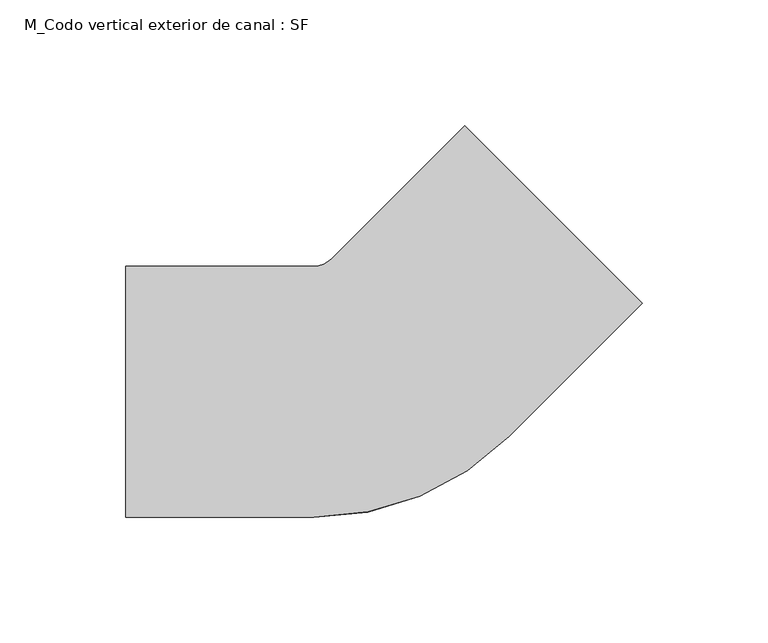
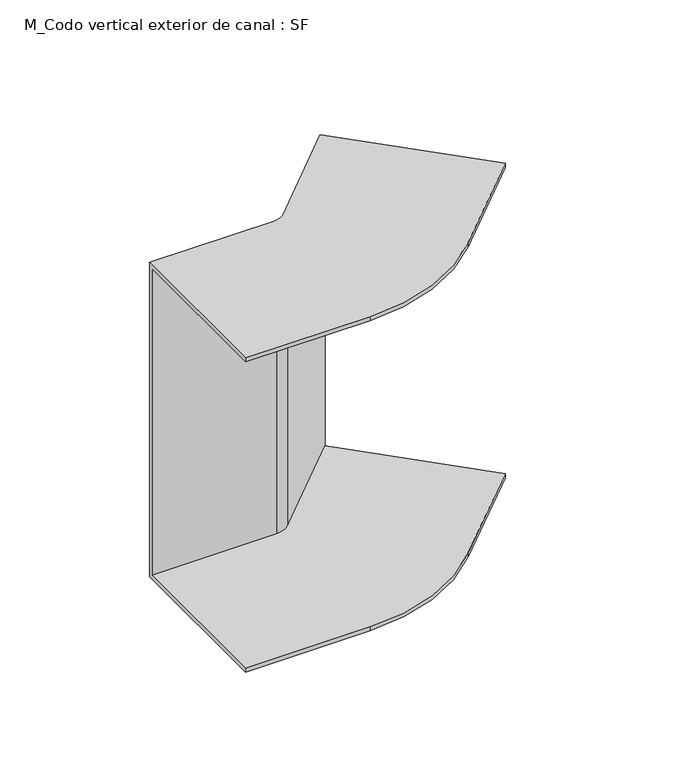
"""IFC4 building model written with IfcOpenShell, lengths in millimetres: cable carrier fitting geometry, M_Codo vertical exterior de canal : SF."""

from ifc_helpers import new_model, si_unit, frame, origin, place, context, project, spatial, polyline, circle_curve, source, transform, mapped, element, save
from ifc_brep_helpers import plane_surface, cylinder_surface, revolved_surface, advanced_brep


def m_codo_vertical_exterior_de_canal_sf_2009c7b2(model_context):
    return source(origin(), model_context, "Body", "AdvancedBrep", [
        advanced_brep(
        [(-99.8528137, -50.0, 100.0), (-99.8528137, 50.0, 100.0), (-99.8528137, 50.0, -100.0), (-99.8528137, -50.0, -100.0), (-99.8528137, -50.0, -97.46), (-99.8528137, 47.46, -97.46), (-99.8528137, 47.46, 97.46), (-99.8528137, -50.0, 97.46), (105.9619408, 35.2512627, 100.0), (105.9619408, 35.2512627, 97.46), (37.0473139, 104.1658896, 97.46), (37.0473139, 104.1658896, -97.46), (105.9619408, 35.2512627, -97.46), (105.9619408, 35.2512627, -100.0), (35.2512627, 105.9619408, -100.0), (35.2512627, 105.9619408, 100.0), (-24.8528137, -50.0, 100.0), (52.9289322, -17.7817459, 100.0), (-17.7817459, 52.9289322, 100.0), (-24.8528137, 50.0, 100.0), (-24.8528137, 50.0, -100.0), (-17.7817459, 52.9289322, -100.0), (52.9289322, -17.7817459, -100.0), (-24.8528137, -50.0, -100.0), (-24.8528137, -50.0, -97.46), (52.9289322, -17.7817459, -97.46), (-15.9856947, 51.132881, -97.46), (-24.8528137, 47.46, -97.46), (-24.8528137, 47.46, 97.46), (-15.9856947, 51.132881, 97.46), (52.9289322, -17.7817459, 97.46), (-24.8528137, -50.0, 97.46)],
        [
            (0, 1),
            (1, 2),
            (2, 3),
            (3, 4),
            (4, 5),
            (5, 6),
            (6, 7),
            (7, 0),
            (8, 9),
            (9, 10),
            (10, 11),
            (11, 12),
            (12, 13),
            (13, 14),
            (14, 15),
            (15, 8),
            (0, 16),
            (16, 17, circle_curve(frame((-24.8528137, 60.0, 100.0), z_axis=(0.0, 0.0, 1.0), x_axis=(0.0, -1.0, 0.0)), 110.0)),
            (17, 8),
            (15, 18),
            (18, 19, circle_curve(frame((-24.8528137, 60.0, 100.0), z_axis=(0.0, 0.0, -1.0), x_axis=(0.0, -1.0, 0.0)), 10.0)),
            (19, 1),
            (19, 20),
            (20, 2),
            (20, 21, circle_curve(frame((-24.8528137, 60.0, -100.0), z_axis=(0.0, 0.0, 1.0), x_axis=(0.0, -1.0, 0.0)), 10.0)),
            (21, 14),
            (13, 22),
            (22, 23, circle_curve(frame((-24.8528137, 60.0, -100.0), z_axis=(0.0, 0.0, -1.0), x_axis=(0.0, -1.0, 0.0)), 110.0)),
            (23, 3),
            (23, 24),
            (24, 4),
            (24, 25, circle_curve(frame((-24.8528137, 60.0, -97.46), z_axis=(0.0, 0.0, 1.0), x_axis=(0.0, -1.0, 0.0)), 110.0)),
            (25, 12),
            (11, 26),
            (26, 27, circle_curve(frame((-24.8528137, 60.0, -97.46), z_axis=(0.0, 0.0, -1.0), x_axis=(0.0, -1.0, 0.0)), 12.54)),
            (27, 5),
            (27, 28),
            (28, 6),
            (28, 29, circle_curve(frame((-24.8528137, 60.0, 97.46), z_axis=(0.0, 0.0, 1.0), x_axis=(0.0, -1.0, 0.0)), 12.54)),
            (29, 10),
            (9, 30),
            (30, 31, circle_curve(frame((-24.8528137, 60.0, 97.46), z_axis=(0.0, 0.0, -1.0), x_axis=(0.0, -1.0, 0.0)), 110.0)),
            (31, 7),
            (31, 16),
            (18, 21),
            (22, 25),
            (26, 29),
            (30, 17),
        ],
        [
            plane_surface(frame((-99.8528137, 0.0, 0.0), z_axis=(-1.0, 0.0, 0.0), x_axis=(0.0, 0.0, 1.0))),
            plane_surface(frame((70.6066017, 70.6066017, 0.0), z_axis=(0.7071067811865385, 0.7071067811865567, 0.0), x_axis=(0.0, 0.0, 1.0))),
            plane_surface(frame((-99.8528137, -50.0, 100.0), z_axis=(0.0, 0.0, 1.0), x_axis=(1.0, 0.0, 0.0))),
            plane_surface(frame((-99.8528137, 50.0, 100.0), z_axis=(0.0, 1.0, 0.0), x_axis=(1.0, 0.0, 0.0))),
            plane_surface(frame((-99.8528137, 50.0, -100.0), z_axis=(0.0, 0.0, -1.0), x_axis=(1.0, 0.0, 0.0))),
            plane_surface(frame((-99.8528137, -50.0, -100.0), z_axis=(0.0, -1.0, 0.0), x_axis=(1.0, 0.0, 0.0))),
            plane_surface(frame((-99.8528137, -50.0, -97.46), z_axis=(0.0, 0.0, 1.0), x_axis=(1.0, 0.0, 0.0))),
            plane_surface(frame((-99.8528137, 47.46, -97.46), z_axis=(0.0, -1.0, 0.0), x_axis=(1.0, 0.0, 0.0))),
            plane_surface(frame((-99.8528137, 47.46, 97.46), z_axis=(0.0, 0.0, -1.0), x_axis=(1.0, 0.0, 0.0))),
            plane_surface(frame((-99.8528137, -50.0, 97.46), z_axis=(0.0, -1.0, 0.0), x_axis=(1.0, 0.0, 0.0))),
            revolved_surface(polyline([(-24.8528137, 50.0, 100.0), (-24.8528137, 50.0, -100.0)]), (-24.8528137, 60.0, 0.0), (0.0, 0.0, 1.0)),
            cylinder_surface(frame((-24.8528137, 60.0, 0.0), z_axis=(0.0, 0.0, 1.0), x_axis=(0.0, -1.0, 0.0)), 110.0),
            cylinder_surface(frame((-24.8528137, 60.0, 0.0), z_axis=(0.0, 0.0, 1.0), x_axis=(0.0, -1.0, 0.0)), 12.54),
            plane_surface(frame((-17.7817459, 52.9289322, 100.0), z_axis=(-0.7071067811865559, 0.7071067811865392, 0.0), x_axis=(0.7071067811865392, 0.7071067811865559, 0.0))),
            plane_surface(frame((52.9289322, -17.7817459, -100.0), z_axis=(0.7071067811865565, -0.7071067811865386, 0.0), x_axis=(0.7071067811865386, 0.7071067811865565, 0.0))),
            plane_surface(frame((-15.9856947, 51.132881, -97.46), z_axis=(0.7071067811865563, -0.7071067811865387, 0.0), x_axis=(0.7071067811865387, 0.7071067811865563, 0.0))),
            plane_surface(frame((52.9289322, -17.7817459, 97.46), z_axis=(0.7071067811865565, -0.7071067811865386, 0.0), x_axis=(0.7071067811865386, 0.7071067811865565, 0.0))),
        ],
        [
            (0, [[1, 2, 3, 4, 5, 6, 7, 8]]),
            (1, [[9, 10, 11, 12, 13, 14, 15, 16]]),
            (2, [[-1, 17, 18, 19, -16, 20, 21, 22]]),
            (3, [[-2, -22, 23, 24]]),
            (4, [[-3, -24, 25, 26, -14, 27, 28, 29]]),
            (5, [[-4, -29, 30, 31]]),
            (6, [[-5, -31, 32, 33, -12, 34, 35, 36]]),
            (7, [[-6, -36, 37, 38]]),
            (8, [[-7, -38, 39, 40, -10, 41, 42, 43]]),
            (9, [[-8, -43, 44, -17]]),
            (10, [[-25, -23, -21, 45]]),
            (11, [[-32, -30, -28, 46]]),
            (12, [[-39, -37, -35, 47]]),
            (11, [[-18, -44, -42, 48]]),
            (13, [[-45, -20, -15, -26]]),
            (14, [[-46, -27, -13, -33]]),
            (15, [[-47, -34, -11, -40]]),
            (16, [[-48, -41, -9, -19]]),
        ],
    ),
    ])


if __name__ == "__main__":
    model = new_model("IFC4")
    model_context = context("Model", 3, world=origin())
    ifc_project = project(units=[si_unit("LENGTHUNIT", "METRE", prefix="MILLI")], contexts=[model_context])
    site = spatial("IfcSite", under=ifc_project)
    building = spatial("IfcBuilding", under=site)
    placement = place(None, origin())
    m_codo_vertical_exterior_de_canal_sf_shape = m_codo_vertical_exterior_de_canal_sf_2009c7b2(model_context)
    element("IfcCableCarrierFitting", 1, ObjectType="M_Codo vertical exterior de canal : SF", at=placement, inside=building, context=model_context, shape_type="MappedRepresentation", body=[
        mapped(m_codo_vertical_exterior_de_canal_sf_shape, transform((0.0, 0.0, 0.0), x_axis=(1.0, 0.0, 0.0), y_axis=(0.0, 1.0, 0.0), z_axis=(0.0, 0.0, 1.0))),
    ])
    save(model, "model.ifc")
